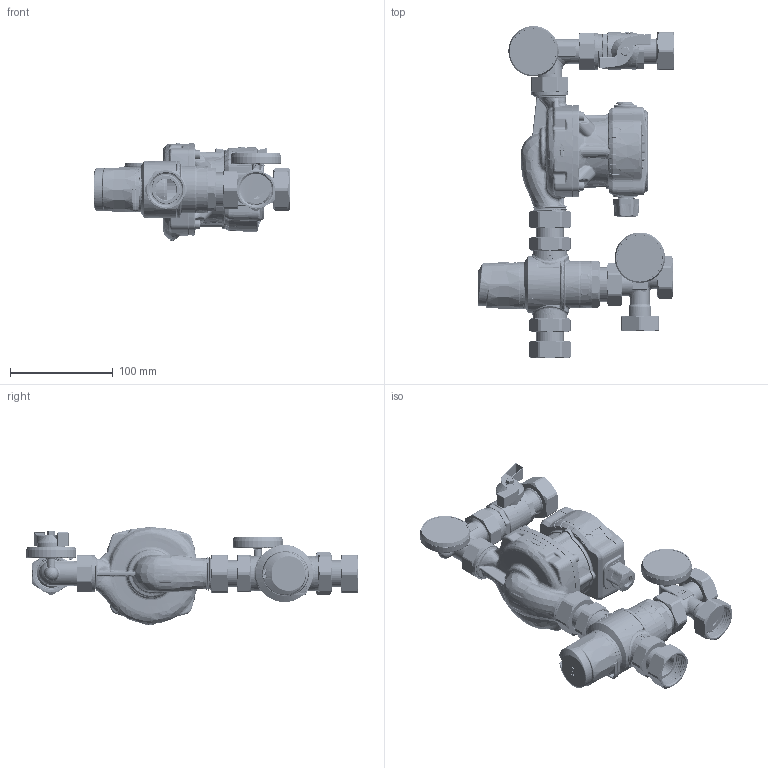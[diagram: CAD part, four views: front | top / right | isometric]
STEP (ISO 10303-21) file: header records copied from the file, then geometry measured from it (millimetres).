
FILE_DESCRIPTION (( 'STEP AP214' ), '1' );
FILE_NAME ('BTU510.STEP', '2022-09-21T12:13:58', ( '' ), ( '' ), 'SwSTEP 2.0', 'SolidWorks 2022', '' );
FILE_SCHEMA (( 'AUTOMOTIVE_DESIGN' ));
Length unit declared in the file: millimetre
Products named in the file (12): Tee-New-BTU-Lavorato; 67081; Poprawiony trójnik Alberto; 67080; 41217; AHP-100-15-7-130_LFP; 67175; BTU510; 23051; ATM761_Zawor_termostatyczny_DN20_1276110_0_AFRISO; Assieme-BTU-ATM761-NOWE; 67079
Assembly tree (11 placements, depth 3):
  BTU510
    Assieme-BTU-ATM761-NOWE
    Poprawiony trójnik Alberto
      Tee-New-BTU-Lavorato
    ATM761_Zawor_termostatyczny_DN20_1276110_0_AFRISO
      41217
      23051
      67175
      67079
      67080
      67081
    AHP-100-15-7-130_LFP
Bounding box: 191.42 x 323.02 x 94.87 mm (x, y, z)
Volume: 704382.6 mm3; surface area: 279333.7 mm2
Topology: 5 solids, 500 shells, 8655 faces, 22907 edges, 14763 vertices
Faces by surface type: bspline 2705, plane 2280, cylinder 1995, cone 1057, torus 474, sphere 144
Full cylindrical faces by diameter (mm): 32.281 x1
Entity records: 491918 total; most frequent: CARTESIAN_POINT 284815, ORIENTED_EDGE 42834, DIRECTION 29778, EDGE_CURVE 22567, VERTEX_POINT 14720, AXIS2_PLACEMENT_3D 11534, B_SPLINE_CURVE_WITH_KNOTS 9415, EDGE_LOOP 9089
